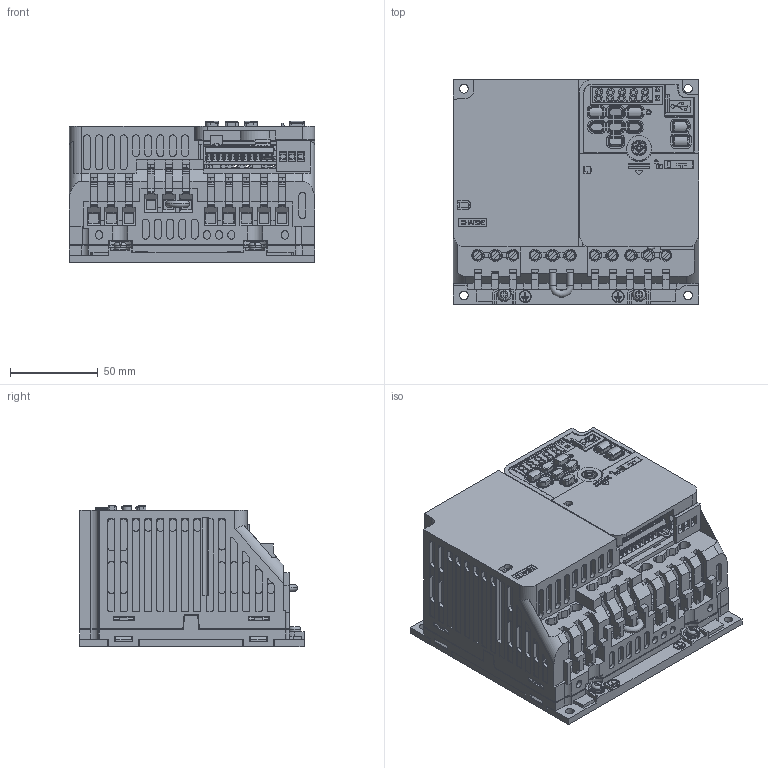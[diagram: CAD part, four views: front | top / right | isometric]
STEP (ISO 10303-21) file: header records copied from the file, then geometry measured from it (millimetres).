
FILE_DESCRIPTION((''),'2;1');
FILE_NAME('CIPR-GA50X4012AJXX_ASM','2020-01-20T',('vsetu'),('YASKAWA ELECTRIC CORCORATION'),'PRO/ENGINEER BY PARAMETRIC TECHNOLOGY CORPORATION, 2015110','PRO/ENGINEER BY PARAMETRIC TECHNOLOGY CORPORATION, 2015110','');
FILE_SCHEMA(('AUTOMOTIVE_DESIGN { 1 0 10303 214 1 1 1 1 }'));
Products named in the file (10): CIPR-GA50X4012AJXX_BODY_1; CIPR-GA50_ALL_TB; CIPR-GA50_KEYPAD; CIPR-GA50_USB_COVER; CIPR-GA50_COMMON_1; CIPR-GA50_COMMON_2; CIPR-GA50_COMMON_3; CIPR-GA50_FP; CIPR-GA50_SCREW_GND_M4X8; CIPR-GA50X4012AJXX_ASM
Assembly tree (10 placements, depth 2):
  CIPR-GA50X4012AJXX_ASM
    CIPR-GA50X4012AJXX_BODY_1
    CIPR-GA50_ALL_TB
    CIPR-GA50_KEYPAD
    CIPR-GA50_USB_COVER
    CIPR-GA50_COMMON_1
    CIPR-GA50_COMMON_2
    CIPR-GA50_COMMON_3
    CIPR-GA50_FP
    CIPR-GA50_SCREW_GND_M4X8  x2
Bounding box: 140 x 128 x 80.75 mm (x, y, z)
Volume: 1053649.8 mm3; surface area: 164951.1 mm2
Topology: 11 solids, 11 shells, 6498 faces, 17223 edges, 11243 vertices
Faces by surface type: plane 5141, cylinder 1237, torus 50, bspline 34, cone 28, sphere 8
Entity records: 248690 total; most frequent: CARTESIAN_POINT 38693, ORIENTED_EDGE 34238, DIRECTION 32381, EDGE_CURVE 17119, VECTOR 14063, LINE 14063, VERTEX_POINT 11181, AXIS2_PLACEMENT_3D 9159
